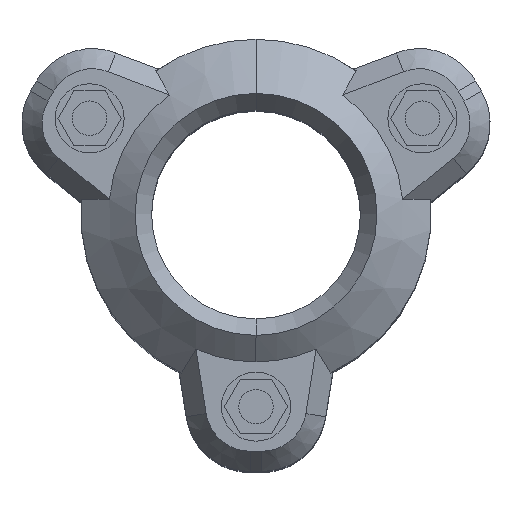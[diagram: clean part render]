
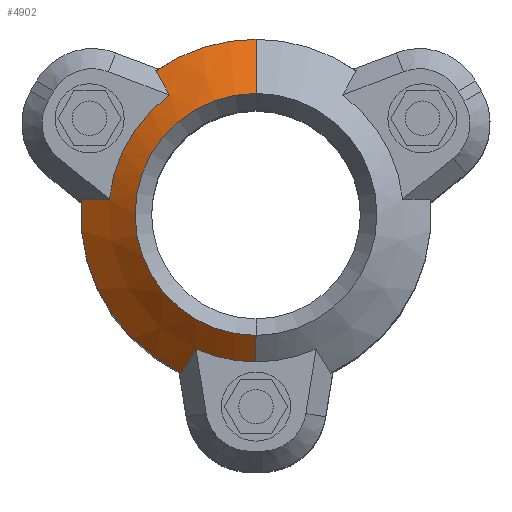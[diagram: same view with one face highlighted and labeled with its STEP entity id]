
A CAD part, top view. The second image highlights one B-rep face of the part: STEP entity #4902.
In plain terms, the highlighted conical face has half-angle 49.964 degrees and reference radius 51.403 mm.
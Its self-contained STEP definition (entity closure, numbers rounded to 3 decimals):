
#3697=CARTESIAN_POINT('',(60.586,-5.166,7.2));
#3724=CARTESIAN_POINT('',(34.767,-49.885,7.2));
#3778=CARTESIAN_POINT('',(30.082,-41.446,15.26));
#3779=CARTESIAN_POINT('',(30.577,-42.336,14.41));
#3780=CARTESIAN_POINT('',(31.585,-44.149,12.68));
#3781=CARTESIAN_POINT('',(33.146,-46.961,9.994));
#3782=CARTESIAN_POINT('',(34.221,-48.9,8.142));
#3783=CARTESIAN_POINT('',(34.767,-49.885,7.2));
#3785=CARTESIAN_POINT('',(0.,0.,7.2));
#3786=DIRECTION('',(0.,0.,-1.));
#3787=DIRECTION('',(0.572,-0.82,0.));
#3788=AXIS2_PLACEMENT_3D('',#3785,#3786,#3787);
#3790=DIRECTION('',(0.,0.766,0.643));
#3791=VECTOR('',#3790,24.562);
#3792=CARTESIAN_POINT('',(0.,-60.805,7.2));
#3793=LINE('',#3792,#3791);
#3794=DIRECTION('',(0.,-0.766,0.643));
#3795=VECTOR('',#3794,12.032);
#3796=CARTESIAN_POINT('',(0.,51.212,15.26));
#3797=LINE('',#3796,#3795);
#3798=CARTESIAN_POINT('',(0.,0.,15.26));
#3799=DIRECTION('',(0.,0.,1.));
#3800=DIRECTION('',(0.407,0.913,0.));
#3801=AXIS2_PLACEMENT_3D('',#3798,#3799,#3800);
#3803=CARTESIAN_POINT('',(0.,0.,7.2));
#3804=DIRECTION('',(0.,0.,-1.));
#3805=DIRECTION('',(0.425,0.905,0.));
#3806=AXIS2_PLACEMENT_3D('',#3803,#3804,#3805);
#3808=CARTESIAN_POINT('',(60.586,-5.166,7.2));
#3809=CARTESIAN_POINT('',(59.459,-5.186,8.142));
#3810=CARTESIAN_POINT('',(57.242,-5.225,9.994));
#3811=CARTESIAN_POINT('',(54.026,-5.279,12.68));
#3812=CARTESIAN_POINT('',(51.953,-5.313,14.41));
#3813=CARTESIAN_POINT('',(50.934,-5.329,15.26));
#3815=CARTESIAN_POINT('',(0.,0.,15.26));
#3816=DIRECTION('',(0.,0.,1.));
#3817=DIRECTION('',(0.587,-0.809,0.));
#3818=AXIS2_PLACEMENT_3D('',#3815,#3816,#3817);
#4334=CARTESIAN_POINT('',(25.819,55.052,7.2));
#4336=CARTESIAN_POINT('',(25.819,55.052,7.2));
#4337=CARTESIAN_POINT('',(24.923,53.562,8.653));
#4338=CARTESIAN_POINT('',(23.199,50.692,11.45));
#4339=CARTESIAN_POINT('',(21.612,48.044,14.027));
#4340=CARTESIAN_POINT('',(20.852,46.775,15.26));
#4445=CARTESIAN_POINT('',(0.,0.,23.));
#4446=DIRECTION('',(0.,0.,-1.));
#4447=DIRECTION('',(0.,1.,0.));
#4448=AXIS2_PLACEMENT_3D('',#4445,#4446,#4447);
#4512=CARTESIAN_POINT('',(0.,42.,23.));
#4513=VERTEX_POINT('',#4512);
#4518=CARTESIAN_POINT('',(0.,-60.805,7.2));
#4519=CARTESIAN_POINT('',(0.,-42.,23.));
#4520=VERTEX_POINT('',#4518);
#4521=VERTEX_POINT('',#4519);
#4534=CARTESIAN_POINT('',(0.,51.212,15.26));
#4535=VERTEX_POINT('',#4534);
#4556=CARTESIAN_POINT('',(20.852,46.775,15.26));
#4557=VERTEX_POINT('',#4556);
#4560=VERTEX_POINT('',#4334);
#4663=CARTESIAN_POINT('',(50.934,-5.329,15.26));
#4665=VERTEX_POINT('',#4663);
#4678=CARTESIAN_POINT('',(30.082,-41.446,15.26));
#4679=VERTEX_POINT('',#4678);
#4726=VERTEX_POINT('',#3724);
#4729=VERTEX_POINT('',#3697);
#4878=CARTESIAN_POINT('',(0.,0.,15.1));
#4879=DIRECTION('',(0.,0.,-1.));
#4880=DIRECTION('',(0.,-1.,0.));
#4881=AXIS2_PLACEMENT_3D('',#4878,#4879,#4880);
#4882=CONICAL_SURFACE('',#4881,51.403,49.964);
#4884=ORIENTED_EDGE('',*,*,#4883,.T.);
#4885=ORIENTED_EDGE('',*,*,#4838,.T.);
#4887=ORIENTED_EDGE('',*,*,#4886,.T.);
#4889=ORIENTED_EDGE('',*,*,#4888,.F.);
#4891=ORIENTED_EDGE('',*,*,#4890,.F.);
#4893=ORIENTED_EDGE('',*,*,#4892,.F.);
#4895=ORIENTED_EDGE('',*,*,#4894,.F.);
#4896=ORIENTED_EDGE('',*,*,#4810,.T.);
#4897=ORIENTED_EDGE('',*,*,#4866,.T.);
#4899=ORIENTED_EDGE('',*,*,#4898,.F.);
#4900=EDGE_LOOP('',(#4884,#4885,#4887,#4889,#4891,#4893,#4895,#4896,#4897,
#4899));
#4901=FACE_OUTER_BOUND('',#4900,.F.);
#4902=ADVANCED_FACE('',(#4901),#4882,.T.);
#3784=B_SPLINE_CURVE_WITH_KNOTS('',3,(#3778,#3779,#3780,#3781,#3782,#3783),
.UNSPECIFIED.,.F.,.F.,(4,1,1,4),(0.,0.333,0.667,1.),
.UNSPECIFIED.);
#3789=CIRCLE('',#3788,60.805);
#3802=CIRCLE('',#3801,51.212);
#3807=CIRCLE('',#3806,60.805);
#3814=B_SPLINE_CURVE_WITH_KNOTS('',3,(#3808,#3809,#3810,#3811,#3812,#3813),
.UNSPECIFIED.,.F.,.F.,(4,1,1,4),(0.,0.333,0.667,1.),
.UNSPECIFIED.);
#3819=CIRCLE('',#3818,51.212);
#4341=B_SPLINE_CURVE_WITH_KNOTS('',3,(#4336,#4337,#4338,#4339,#4340),
.UNSPECIFIED.,.F.,.F.,(4,1,4),(0.,0.5,1.),.UNSPECIFIED.);
#4449=CIRCLE('',#4448,42.);
#4810=EDGE_CURVE('',#4560,#4729,#3807,.T.);
#4838=EDGE_CURVE('',#4726,#4520,#3789,.T.);
#4866=EDGE_CURVE('',#4729,#4665,#3814,.T.);
#4883=EDGE_CURVE('',#4679,#4726,#3784,.T.);
#4886=EDGE_CURVE('',#4520,#4521,#3793,.T.);
#4888=EDGE_CURVE('',#4513,#4521,#4449,.T.);
#4890=EDGE_CURVE('',#4535,#4513,#3797,.T.);
#4892=EDGE_CURVE('',#4557,#4535,#3802,.T.);
#4894=EDGE_CURVE('',#4560,#4557,#4341,.T.);
#4898=EDGE_CURVE('',#4679,#4665,#3819,.T.);
